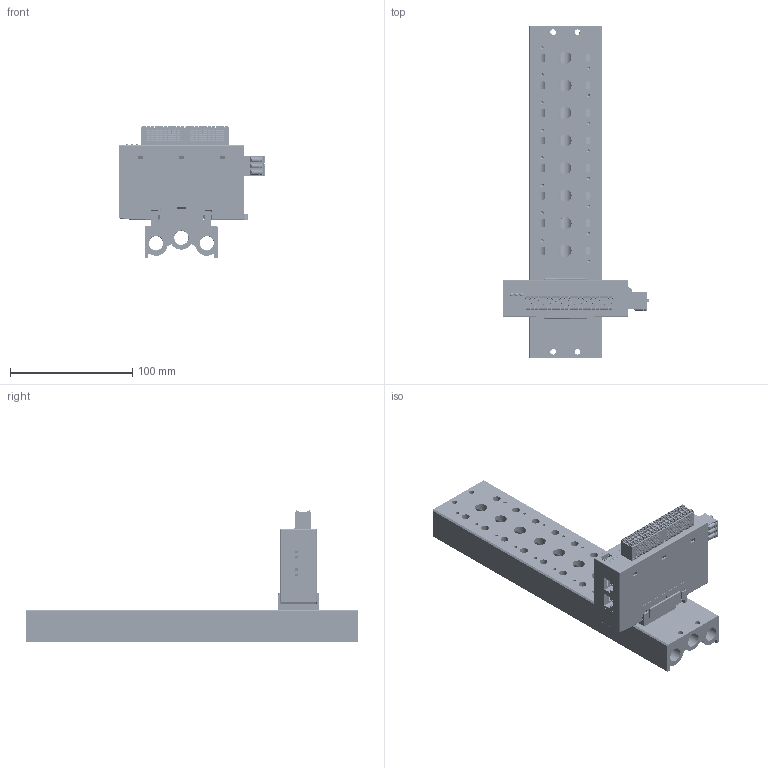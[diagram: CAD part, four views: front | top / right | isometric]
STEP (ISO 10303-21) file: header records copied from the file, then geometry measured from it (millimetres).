
FILE_DESCRIPTION(/* description */ (''),/* implementation_level */ '2;1');
FILE_NAME(/* name */ '',/* time_stamp */ '2025-10-09T16:49:40+08:00',/* author */ (''),/* organization */ (''),/* preprocessor_version */ 'ST-DEVELOPER v14',/* originating_system */ 'SIEMENS PLM Software NX 8.0',/* authorisation */ '');
FILE_SCHEMA (('AP203_CONFIGURATION_CONTROLLED_3D_DESIGN_OF_MECHANICAL_PARTS_AND_ASSEMBLIES_MIM_LF { 1 0 10303 403 2 1 2}'));
Products named in the file (1): DELL3E5857E9udqg
Bounding box: 119.8 x 271 x 108.48 mm (x, y, z)
Volume: 446938.9 mm3; surface area: 143621.2 mm2
Topology: 2 solids, 227 shells, 9747 faces, 25799 edges, 16788 vertices
Faces by surface type: plane 6389, cylinder 2275, bspline 342, torus 336, cone 221, sphere 95, extrusion 89
Full cylindrical faces by diameter (mm): 0.18 x2, 2.5 x21, 3.05 x40, 3.3 x3, 3.5 x4, 4 x3, 4.5 x4, 6 x4, 6.5 x16, 10 x8, 11.5 x5, 11.8 x6
Entity records: 321198 total; most frequent: CARTESIAN_POINT 81384, ORIENTED_EDGE 50484, DIRECTION 48008, EDGE_CURVE 25242, VECTOR 18056, LINE 17967, VERTEX_POINT 16643, AXIS2_PLACEMENT_3D 14976
